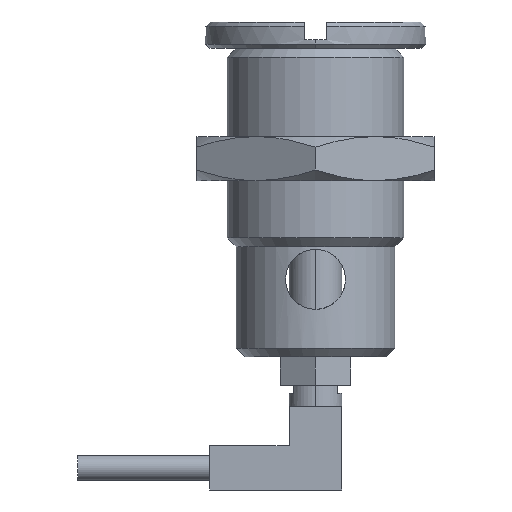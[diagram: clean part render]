
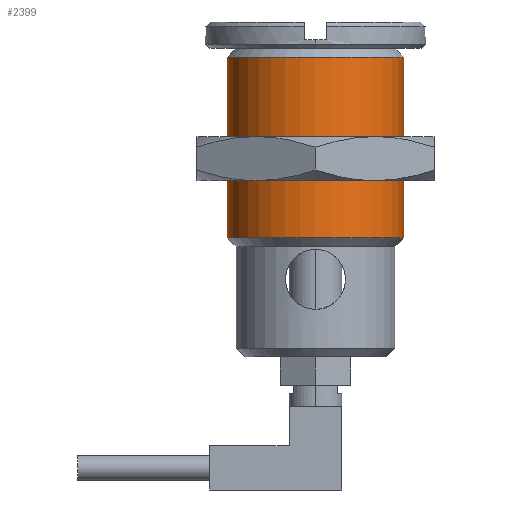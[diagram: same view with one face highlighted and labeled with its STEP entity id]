
A CAD part, left-side view. The second image highlights one B-rep face of the part: STEP entity #2399.
In plain terms, the highlighted cylindrical face has radius 10 mm (diameter 20 mm), a partial arc.
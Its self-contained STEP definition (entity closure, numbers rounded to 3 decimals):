
#30 = CIRCLE ( 'NONE', #531, 10. ) ;
#277 = CARTESIAN_POINT ( 'NONE',  ( 0., 10., -31. ) ) ;
#345 = VERTEX_POINT ( 'NONE', #1583 ) ;
#531 = AXIS2_PLACEMENT_3D ( 'NONE', #1947, #3323, #4291 ) ;
#539 = DIRECTION ( 'NONE',  ( 0., 0., 1. ) ) ;
#705 = CARTESIAN_POINT ( 'NONE',  ( 0., 10., -9.5 ) ) ;
#715 = VERTEX_POINT ( 'NONE', #3863 ) ;
#740 = AXIS2_PLACEMENT_3D ( 'NONE', #3467, #4147, #1724 ) ;
#864 = DIRECTION ( 'NONE',  ( 0., -1., 0. ) ) ;
#1034 = VECTOR ( 'NONE', #1536, 1000. ) ;
#1395 = CIRCLE ( 'NONE', #740, 10. ) ;
#1473 = CARTESIAN_POINT ( 'NONE',  ( 0., 0., -9.5 ) ) ;
#1536 = DIRECTION ( 'NONE',  ( 0., 0., 1. ) ) ;
#1583 = CARTESIAN_POINT ( 'NONE',  ( 0., -10., -10.5 ) ) ;
#1631 = ORIENTED_EDGE ( 'NONE', *, *, #3459, .T. ) ;
#1653 = EDGE_LOOP ( 'NONE', ( #2462, #1721, #1631, #1774 ) ) ;
#1721 = ORIENTED_EDGE ( 'NONE', *, *, #3823, .T. ) ;
#1724 = DIRECTION ( 'NONE',  ( 0., -1., 0. ) ) ;
#1739 = FACE_OUTER_BOUND ( 'NONE', #1653, .T. ) ;
#1774 = ORIENTED_EDGE ( 'NONE', *, *, #4155, .T. ) ;
#1947 = CARTESIAN_POINT ( 'NONE',  ( 0., 0., -10.5 ) ) ;
#2172 = DIRECTION ( 'NONE',  ( 0., 0., 1. ) ) ;
#2270 = EDGE_CURVE ( 'NONE', #2714, #715, #3567, .T. ) ;
#2399 = ADVANCED_FACE ( 'NONE', ( #1739 ), #2552, .T. ) ;
#2462 = ORIENTED_EDGE ( 'NONE', *, *, #2270, .F. ) ;
#2552 = CYLINDRICAL_SURFACE ( 'NONE', #2985, 10. ) ;
#2629 = VECTOR ( 'NONE', #539, 1000. ) ;
#2714 = VERTEX_POINT ( 'NONE', #277 ) ;
#2890 = VERTEX_POINT ( 'NONE', #3217 ) ;
#2959 = LINE ( 'NONE', #3303, #2629 ) ;
#2985 = AXIS2_PLACEMENT_3D ( 'NONE', #1473, #2172, #864 ) ;
#3217 = CARTESIAN_POINT ( 'NONE',  ( 0., -10., -31. ) ) ;
#3303 = CARTESIAN_POINT ( 'NONE',  ( 0., -10., -9.5 ) ) ;
#3323 = DIRECTION ( 'NONE',  ( 0., 0., -1. ) ) ;
#3459 = EDGE_CURVE ( 'NONE', #2890, #345, #2959, .T. ) ;
#3467 = CARTESIAN_POINT ( 'NONE',  ( 0., 0., -31. ) ) ;
#3567 = LINE ( 'NONE', #705, #1034 ) ;
#3823 = EDGE_CURVE ( 'NONE', #2714, #2890, #1395, .T. ) ;
#3863 = CARTESIAN_POINT ( 'NONE',  ( 0., 10., -10.5 ) ) ;
#4147 = DIRECTION ( 'NONE',  ( 0., 0., 1. ) ) ;
#4155 = EDGE_CURVE ( 'NONE', #345, #715, #30, .T. ) ;
#4291 = DIRECTION ( 'NONE',  ( 0., -1., 0. ) ) ;
